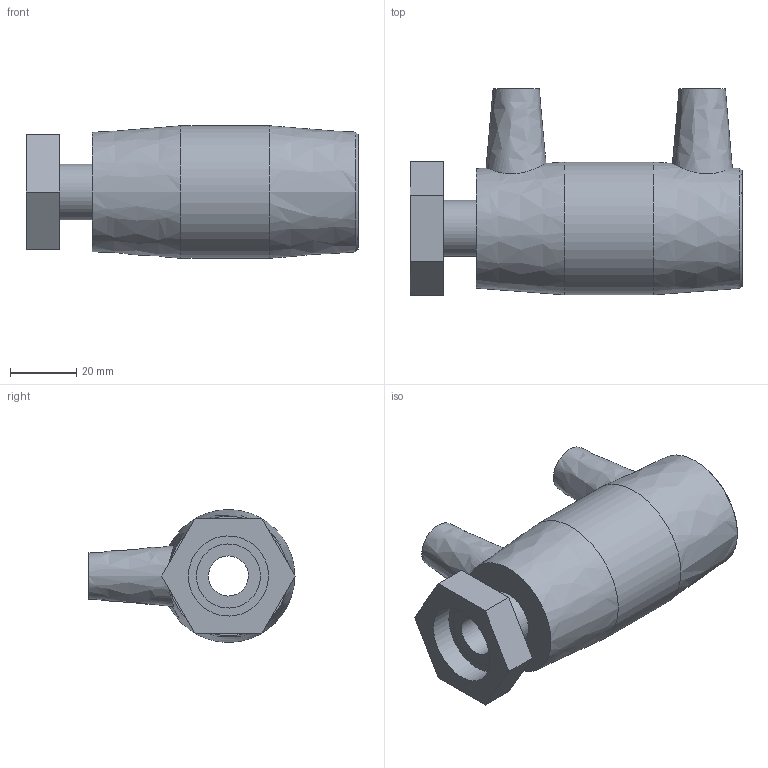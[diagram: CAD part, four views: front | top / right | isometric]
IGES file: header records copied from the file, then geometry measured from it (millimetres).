
Global section: file name: 494104032007; native system: Autodesk Inventor 2026; preprocessor: unknown; author: KIM; date: 20260512.113426; units: millimetre
Bounding box: 100 x 62.06 x 39.92 mm (x, y, z)
Volume: 50388.2 mm3; surface area: 27053.5 mm2
Topology: 1 solids, 1 shells, 36 faces, 81 edges, 59 vertices
Faces by surface type: bspline 36
